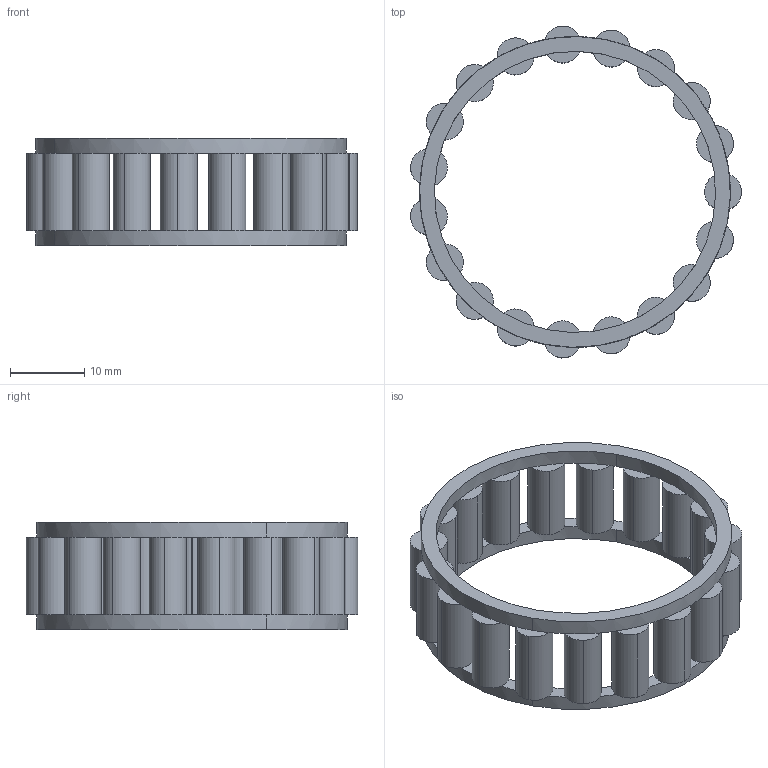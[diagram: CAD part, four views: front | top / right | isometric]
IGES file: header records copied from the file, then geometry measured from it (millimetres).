
Start section: START RECORD GO HERE.
Global section: file name: ROULEMENTS A AIGUILLES.igs; native system: IBM CATIA IGES - CATIA Version 5 Release 18 ; preprocessor: CATIA Version 5 Release 18 ; author: Propriétaire; organization: FUJITSU-79916BB; date: 20090111.191634; units: millimetre
Bounding box: 44.73 x 44.85 x 14.5 mm (x, y, z)
Surface area: 5150.9 mm2 (no closed solid volume)
Topology: 0 solids, 0 shells, 162 faces, 884 edges, 884 vertices
Faces by surface type: plane 116, revolution 46
